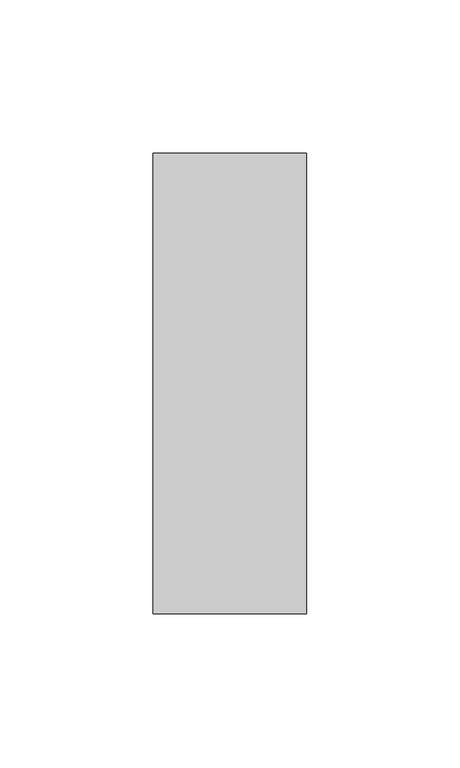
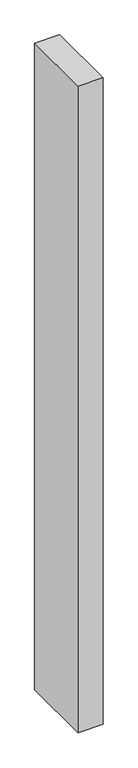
"""IFC4 building model written with IfcOpenShell, lengths in millimetres: member geometry, Прямоугольный импост : 50 x 150 мм."""

from ifc_helpers import new_model, si_unit, frame, origin, place, context, project, spatial, polyline, outline, extrude, source, transform, mapped, element, save


def member_d6bb230f(model_context):
    return source(origin(), model_context, "Body", "SweptSolid", [
        extrude(outline(polyline([(25.0, 75.0), (25.0, -75.0), (-25.0, -75.0), (-25.0, 75.0), (25.0, 75.0)])), frame((0.0, 0.0, -1365.6923444), z_axis=(0.0, 0.0, 1.0), x_axis=(1.0, 0.0, 0.0)), (0.0, 0.0, 1.0), 1365.6923444),
    ])


if __name__ == "__main__":
    model = new_model("IFC4")
    model_context = context("Model", 3, world=origin())
    ifc_project = project(units=[si_unit("LENGTHUNIT", "METRE", prefix="MILLI")], contexts=[model_context])
    site = spatial("IfcSite", under=ifc_project)
    building = spatial("IfcBuilding", under=site)
    placement = place(None, origin())
    member_shape = member_d6bb230f(model_context)
    element("IfcMember", 1, ObjectType="Прямоугольный импост : 50 x 150 мм", at=placement, inside=building, context=model_context, shape_type="MappedRepresentation", body=[
        mapped(member_shape, transform((0.0, 0.0, 0.0), x_axis=(1.0, 0.0, 0.0), y_axis=(0.0, 1.0, 0.0), z_axis=(0.0, 0.0, 1.0))),
    ])
    save(model, "model.ifc")
